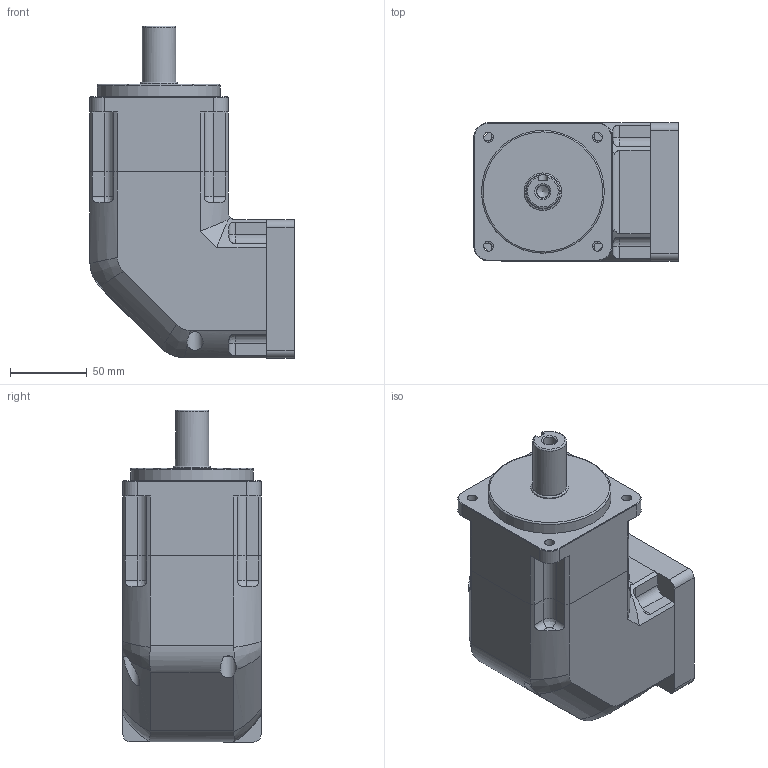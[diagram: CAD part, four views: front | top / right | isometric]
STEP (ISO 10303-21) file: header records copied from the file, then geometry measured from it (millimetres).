
FILE_DESCRIPTION((''),'2;1');
FILE_NAME('C:\Documents and Settings\nagyu\바탕 화면\유성감속기 3D\SPL090\SPL090S003~020KA.stp','2009-10-27T09:43:33',('nagyu'),(''),'Autodesk Inventor 2010','Autodesk Inventor 2010','');
FILE_SCHEMA(('AUTOMOTIVE_DESIGN { 1 0 10303 214 1 1 1 1 }'));
Length unit declared in the file: millimetre
Products named in the file (4): SPL090 1단; SPI090; SPL090 GEARCASE; 90각 INPUT ADAPTER FLANGE
Assembly tree (3 placements, depth 2):
  SPL090 1단
    SPI090
    SPL090 GEARCASE
    90각 INPUT ADAPTER FLANGE
Bounding box: 133.1 x 90 x 216.2 mm (x, y, z)
Volume: 1267619 mm3; surface area: 147823.4 mm2
Topology: 3 solids, 3 shells, 233 faces, 607 edges, 395 vertices
Faces by surface type: plane 94, cylinder 90, bspline 36, cone 10, torus 3
Full cylindrical faces by diameter (mm): 5.5 x4, 6.5 x4, 9.5 x4, 12 x1, 15 x1, 22 x1, 24.5 x1, 30 x1, 54 x1, 62 x2, 68 x1, 76 x1, 80 x1
Entity records: 8106 total; most frequent: CARTESIAN_POINT 2543, DIRECTION 1084, ORIENTED_EDGE 1082, EDGE_CURVE 541, AXIS2_PLACEMENT_3D 416, VERTEX_POINT 375, EDGE_LOOP 316, VECTOR 252
